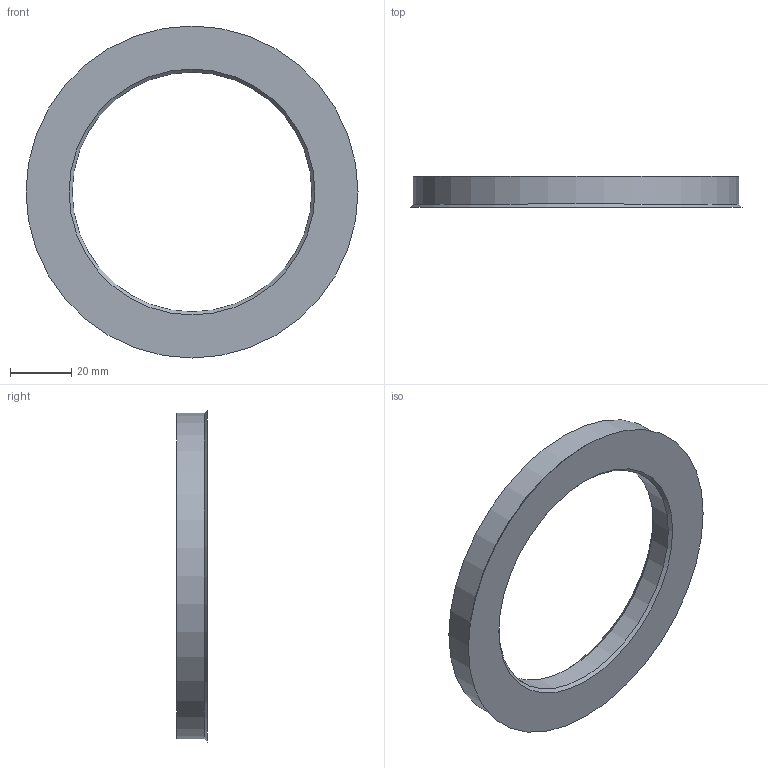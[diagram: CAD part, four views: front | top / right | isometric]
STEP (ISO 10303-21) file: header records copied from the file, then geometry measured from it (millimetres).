
FILE_DESCRIPTION(/* description */ (''),/* implementation_level */ '2;1');
FILE_NAME(/* name */ 'G:\CAD Library\Team Tasks\DIPP\11th Intake\Bradley Coles\Design Drafting\Random\Hub Rings\ipt\HubRing_106.2-78.1.stp',/* time_stamp */ '2025-07-22T13:42:40+08:00',/* author */ ('BCOLES'),/* organization */ (''),/* preprocessor_version */ 'ST-DEVELOPER v18.1',/* originating_system */ 'Autodesk Inventor 2022',/* authorisation */ '');
FILE_SCHEMA (('AUTOMOTIVE_DESIGN { 1 0 10303 214 3 1 1 }'));
Length unit declared in the file: millimetre
Products named in the file (1): HubRing_106.2-78.1
Bounding box: 108.2 x 10 x 108.2 mm (x, y, z)
Volume: 40219.5 mm3; surface area: 13979.6 mm2
Topology: 1 solids, 1 shells, 7 faces, 13 edges, 8 vertices
Faces by surface type: cone 3, cylinder 2, plane 2
Full cylindrical faces by diameter (mm): 78.1 x1, 106.2 x1
Entity records: 226 total; most frequent: DIRECTION 37, CARTESIAN_POINT 29, ORIENTED_EDGE 26, AXIS2_PLACEMENT_3D 16, EDGE_CURVE 13, EDGE_LOOP 9, CIRCLE 8, VERTEX_POINT 8
